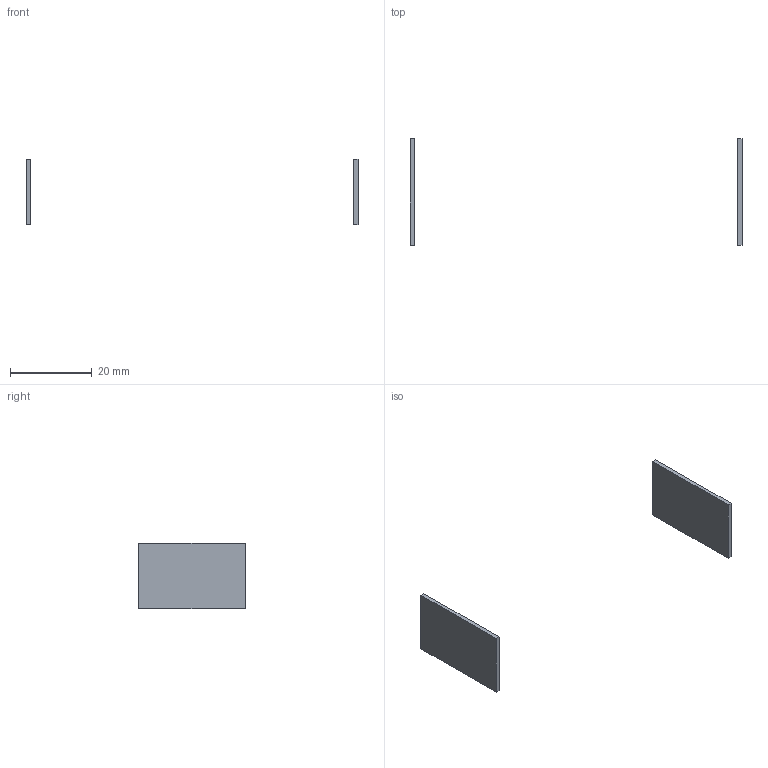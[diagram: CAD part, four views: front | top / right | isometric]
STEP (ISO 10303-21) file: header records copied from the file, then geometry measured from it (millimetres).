
FILE_DESCRIPTION(('Open CASCADE Model'),'2;1');
FILE_NAME('heaters','2026-08-12T02:42:45',('Author'),('Open CASCADE'), 'Open CASCADE STEP processor 7.9','build123d','Unknown');
FILE_SCHEMA(('AUTOMOTIVE_DESIGN { 1 0 10303 214 1 1 1 1 }'));
Length unit declared in the file: millimetre
Products named in the file (3): heaters; COMPOUND
Assembly tree (2 placements, depth 2):
  heaters
    COMPOUND
    COMPOUND
Bounding box: 81 x 26 x 16 mm (x, y, z)
Volume: 832 mm3; surface area: 1832 mm2
Topology: 2 solids, 2 shells, 12 faces, 24 edges, 16 vertices
Faces by surface type: plane 12
Entity records: 664 total; most frequent: CARTESIAN_POINT 103, DIRECTION 102, LINE 72, VECTOR 72, ORIENTED_EDGE 48, PCURVE 48, DEFINITIONAL_REPRESENTATION 48, EDGE_CURVE 24
